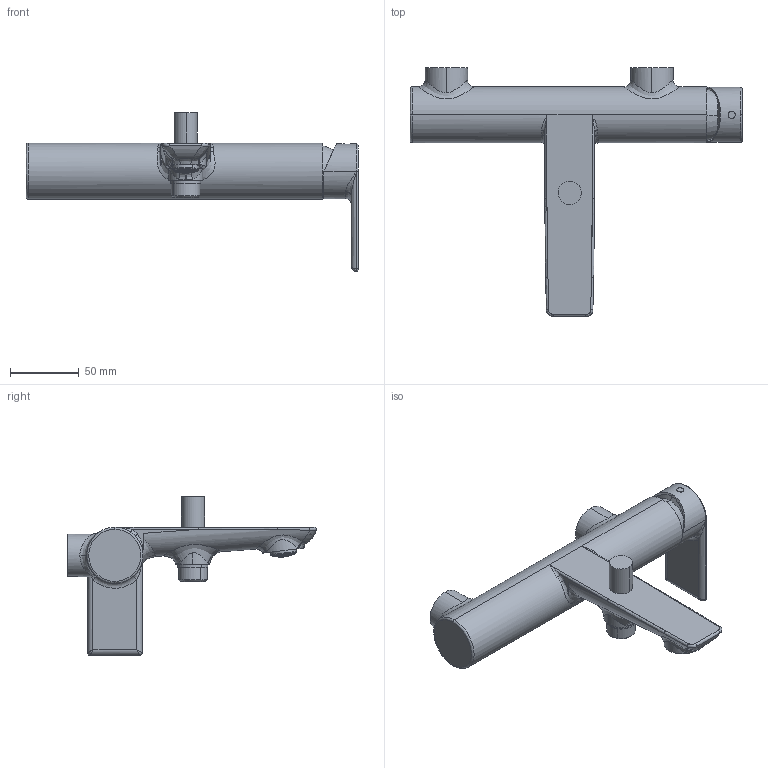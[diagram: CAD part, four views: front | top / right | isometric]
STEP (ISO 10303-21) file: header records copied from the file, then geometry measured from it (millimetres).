
FILE_DESCRIPTION (( 'STEP AP214' ), '1' );
FILE_NAME ('80122110 x architetti.STEP', '2024-06-20T12:28:56', ( '' ), ( '' ), 'SwSTEP 2.0', 'SolidWorks 2020', '' );
FILE_SCHEMA (( 'AUTOMOTIVE_DESIGN' ));
Length unit declared in the file: millimetre
Products named in the file (1): 80122110 x architetti
Bounding box: 242.3 x 181.67 x 115.85 mm (x, y, z)
Volume: 430009.4 mm3; surface area: 67514.3 mm2
Topology: 3 solids, 13 shells, 3848 faces, 10706 edges, 6837 vertices
Faces by surface type: plane 2228, bspline 1137, cylinder 348, cone 128, torus 7
Entity records: 222876 total; most frequent: CARTESIAN_POINT 97429, ORIENTED_EDGE 20992, DIRECTION 12570, EDGE_CURVE 10496, VERTEX_POINT 6837, AXIS2_PLACEMENT_3D 4274, EDGE_LOOP 4251, B_SPLINE_CURVE_WITH_KNOTS 4249
